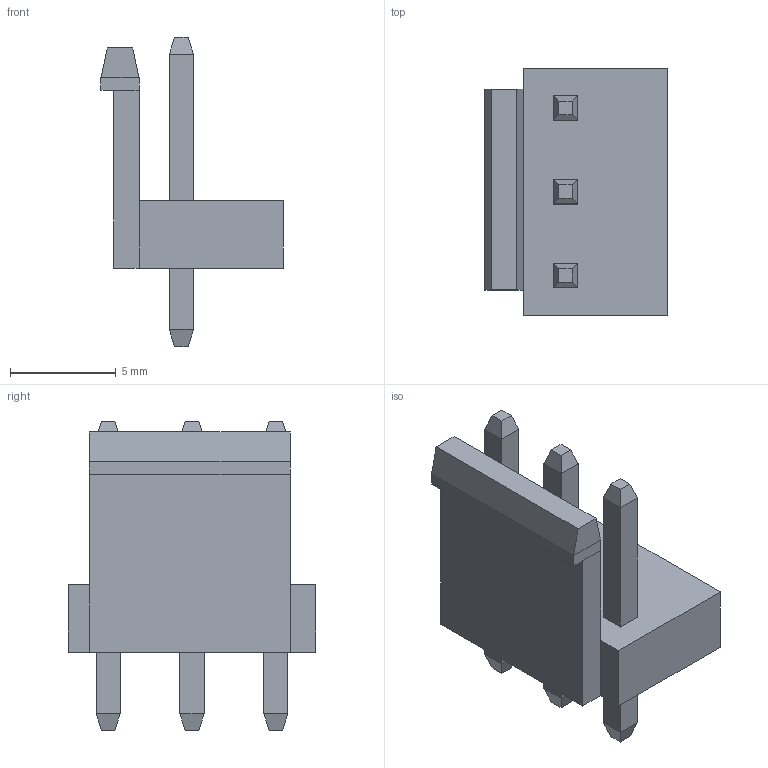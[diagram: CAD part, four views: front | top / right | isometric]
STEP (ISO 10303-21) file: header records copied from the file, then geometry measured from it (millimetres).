
FILE_DESCRIPTION(('FreeCAD Model'),'2;1');
FILE_NAME('Open CASCADE Shape Model','2021-06-28T19:30:18',('Author'),( ''),'Open CASCADE STEP processor 7.5','FreeCAD','Unknown');
FILE_SCHEMA(('AUTOMOTIVE_DESIGN { 1 0 10303 214 1 1 1 1 }'));
Length unit declared in the file: millimetre
Products named in the file (1): Group001
Bounding box: 8.6 x 11.68 x 14.6 mm (x, y, z)
Volume: 422 mm3; surface area: 615.8 mm2
Topology: 1 solids, 1 shells, 76 faces, 168 edges, 100 vertices
Faces by surface type: plane 76
Entity records: 4720 total; most frequent: CARTESIAN_POINT 705, DIRECTION 634, LINE 480, VECTOR 480, ORIENTED_EDGE 336, PCURVE 336, DEFINITIONAL_REPRESENTATION 336, EDGE_CURVE 168
